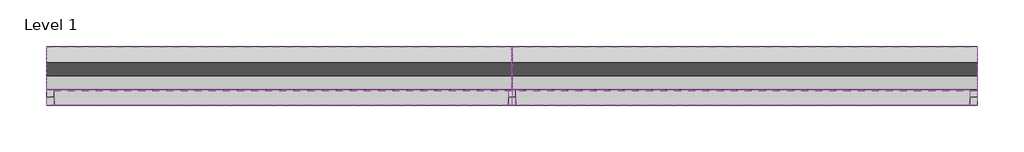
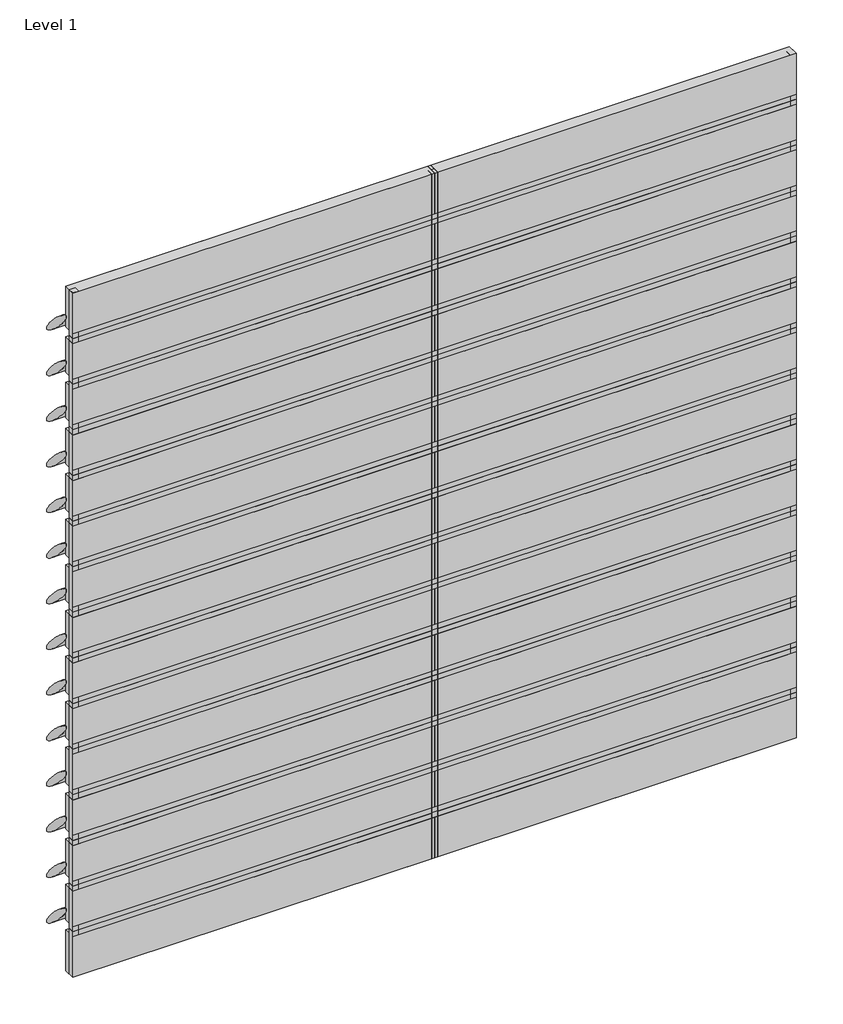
# One storey: 73 members, 60 plates.
"""IFC4 building model written with IfcOpenShell, lengths in millimetres."""

from ifc_helpers import new_model, si_unit, origin, place, context, project, spatial, transform, mapped, element, save
from components import rectangular_mullion_d3fee28a, rectangular_mullion_3c6e38bc, rectangular_mullion_05cc9e47, rectangular_mullion_4a4034a1, empty_system_panel_empty_4c958b02, empty_system_panel_empty_f3cf44e5, empty_system_panel_empty_0ce9900c

model = new_model("IFC4")

# Units and contexts
model_context = context("Model", 3, world=origin())
ifc_project = project(units=[si_unit("LENGTHUNIT", "METRE", prefix="MILLI")], contexts=[model_context])

# Site, building, storey
site = spatial("IfcSite", under=ifc_project)
building = spatial("IfcBuilding", under=site)
storey = spatial("IfcBuildingStorey", under=building, Name="Level 1", Elevation=0.0)

# Members
placement = place(None, origin())
rectangular_mullion_shape = rectangular_mullion_d3fee28a(model_context)
element("IfcMember", 1, ObjectType="Rectangular Mullion : RSen_21_CWM_blade - 400 ellips - 45°_gen_duco projects", at=placement, inside=storey, context=model_context, shape_type="MappedRepresentation", body=[
    mapped(rectangular_mullion_shape, transform((3000.0, 3000.0, 400.0), x_axis=(0.0, 0.0, 1.0), y_axis=(0.0, 1.0, 0.0), z_axis=(-1.0, 0.0, 0.0))),
])
element("IfcMember", 2, ObjectType="Rectangular Mullion : RSen_21_CWM_blade - 400 ellips - 45°_gen_duco projects", at=placement, inside=storey, context=model_context, shape_type="MappedRepresentation", body=[
    mapped(rectangular_mullion_shape, transform((3000.0, 3000.0, 800.0), x_axis=(0.0, 0.0, 1.0), y_axis=(0.0, 1.0, 0.0), z_axis=(-1.0, 0.0, 0.0))),
])
element("IfcMember", 3, ObjectType="Rectangular Mullion : RSen_21_CWM_blade - 400 ellips - 45°_gen_duco projects", at=placement, inside=storey, context=model_context, shape_type="MappedRepresentation", body=[
    mapped(rectangular_mullion_shape, transform((3000.0, 3000.0, 1200.0), x_axis=(0.0, 0.0, 1.0), y_axis=(0.0, 1.0, 0.0), z_axis=(-1.0, 0.0, 0.0))),
])
element("IfcMember", 4, ObjectType="Rectangular Mullion : RSen_21_CWM_blade - 400 ellips - 45°_gen_duco projects", at=placement, inside=storey, context=model_context, shape_type="MappedRepresentation", body=[
    mapped(rectangular_mullion_shape, transform((3000.0, 3000.0, 1600.0), x_axis=(0.0, 0.0, 1.0), y_axis=(0.0, 1.0, 0.0), z_axis=(-1.0, 0.0, 0.0))),
])
element("IfcMember", 5, ObjectType="Rectangular Mullion : RSen_21_CWM_blade - 400 ellips - 45°_gen_duco projects", at=placement, inside=storey, context=model_context, shape_type="MappedRepresentation", body=[
    mapped(rectangular_mullion_shape, transform((3000.0, 3000.0, 2000.0), x_axis=(0.0, 0.0, 1.0), y_axis=(0.0, 1.0, 0.0), z_axis=(-1.0, 0.0, 0.0))),
])
element("IfcMember", 6, ObjectType="Rectangular Mullion : RSen_21_CWM_blade - 400 ellips - 45°_gen_duco projects", at=placement, inside=storey, context=model_context, shape_type="MappedRepresentation", body=[
    mapped(rectangular_mullion_shape, transform((3000.0, 3000.0, 2400.0), x_axis=(0.0, 0.0, 1.0), y_axis=(0.0, 1.0, 0.0), z_axis=(-1.0, 0.0, 0.0))),
])
element("IfcMember", 7, ObjectType="Rectangular Mullion : RSen_21_CWM_blade - 400 ellips - 45°_gen_duco projects", at=placement, inside=storey, context=model_context, shape_type="MappedRepresentation", body=[
    mapped(rectangular_mullion_shape, transform((3000.0, 3000.0, 2800.0), x_axis=(0.0, 0.0, 1.0), y_axis=(0.0, 1.0, 0.0), z_axis=(-1.0, 0.0, 0.0))),
])
element("IfcMember", 8, ObjectType="Rectangular Mullion : RSen_21_CWM_blade - 400 ellips - 45°_gen_duco projects", at=placement, inside=storey, context=model_context, shape_type="MappedRepresentation", body=[
    mapped(rectangular_mullion_shape, transform((3000.0, 3000.0, 3200.0), x_axis=(0.0, 0.0, 1.0), y_axis=(0.0, 1.0, 0.0), z_axis=(-1.0, 0.0, 0.0))),
])
element("IfcMember", 9, ObjectType="Rectangular Mullion : RSen_21_CWM_blade - 400 ellips - 45°_gen_duco projects", at=placement, inside=storey, context=model_context, shape_type="MappedRepresentation", body=[
    mapped(rectangular_mullion_shape, transform((3000.0, 3000.0, 3600.0), x_axis=(0.0, 0.0, 1.0), y_axis=(0.0, 1.0, 0.0), z_axis=(-1.0, 0.0, 0.0))),
])
element("IfcMember", 10, ObjectType="Rectangular Mullion : RSen_21_CWM_blade - 400 ellips - 45°_gen_duco projects", at=placement, inside=storey, context=model_context, shape_type="MappedRepresentation", body=[
    mapped(rectangular_mullion_shape, transform((3000.0, 3000.0, 4000.0), x_axis=(0.0, 0.0, 1.0), y_axis=(0.0, 1.0, 0.0), z_axis=(-1.0, 0.0, 0.0))),
])
element("IfcMember", 11, ObjectType="Rectangular Mullion : RSen_21_CWM_blade - 400 ellips - 45°_gen_duco projects", at=placement, inside=storey, context=model_context, shape_type="MappedRepresentation", body=[
    mapped(rectangular_mullion_shape, transform((3000.0, 3000.0, 4400.0), x_axis=(0.0, 0.0, 1.0), y_axis=(0.0, 1.0, 0.0), z_axis=(-1.0, 0.0, 0.0))),
])
element("IfcMember", 12, ObjectType="Rectangular Mullion : RSen_21_CWM_blade - 400 ellips - 45°_gen_duco projects", at=placement, inside=storey, context=model_context, shape_type="MappedRepresentation", body=[
    mapped(rectangular_mullion_shape, transform((3000.0, 3000.0, 4800.0), x_axis=(0.0, 0.0, 1.0), y_axis=(0.0, 1.0, 0.0), z_axis=(-1.0, 0.0, 0.0))),
])
element("IfcMember", 13, ObjectType="Rectangular Mullion : RSen_21_CWM_blade - 400 ellips - 45°_gen_duco projects", at=placement, inside=storey, context=model_context, shape_type="MappedRepresentation", body=[
    mapped(rectangular_mullion_shape, transform((3000.0, 3000.0, 5200.0), x_axis=(0.0, 0.0, 1.0), y_axis=(0.0, 1.0, 0.0), z_axis=(-1.0, 0.0, 0.0))),
])
element("IfcMember", 14, ObjectType="Rectangular Mullion : RSen_21_CWM_blade - 400 ellips - 45°_gen_duco projects", at=placement, inside=storey, context=model_context, shape_type="MappedRepresentation", body=[
    mapped(rectangular_mullion_shape, transform((3000.0, 3000.0, 5600.0), x_axis=(0.0, 0.0, 1.0), y_axis=(0.0, 1.0, 0.0), z_axis=(-1.0, 0.0, 0.0))),
])
element("IfcMember", 15, ObjectType="Rectangular Mullion : RSen_21_CWM_blade - 400 ellips - 45°_gen_duco projects", at=placement, inside=storey, context=model_context, shape_type="MappedRepresentation", body=[
    mapped(rectangular_mullion_shape, transform((0.0, 3000.0, 400.0), x_axis=(0.0, 0.0, 1.0), y_axis=(0.0, 1.0, 0.0), z_axis=(-1.0, 0.0, 0.0))),
])
element("IfcMember", 16, ObjectType="Rectangular Mullion : RSen_21_CWM_blade - 400 ellips - 45°_gen_duco projects", at=placement, inside=storey, context=model_context, shape_type="MappedRepresentation", body=[
    mapped(rectangular_mullion_shape, transform((0.0, 3000.0, 800.0), x_axis=(0.0, 0.0, 1.0), y_axis=(0.0, 1.0, 0.0), z_axis=(-1.0, 0.0, 0.0))),
])
element("IfcMember", 17, ObjectType="Rectangular Mullion : RSen_21_CWM_blade - 400 ellips - 45°_gen_duco projects", at=placement, inside=storey, context=model_context, shape_type="MappedRepresentation", body=[
    mapped(rectangular_mullion_shape, transform((0.0, 3000.0, 1200.0), x_axis=(0.0, 0.0, 1.0), y_axis=(0.0, 1.0, 0.0), z_axis=(-1.0, 0.0, 0.0))),
])
element("IfcMember", 18, ObjectType="Rectangular Mullion : RSen_21_CWM_blade - 400 ellips - 45°_gen_duco projects", at=placement, inside=storey, context=model_context, shape_type="MappedRepresentation", body=[
    mapped(rectangular_mullion_shape, transform((0.0, 3000.0, 1600.0), x_axis=(0.0, 0.0, 1.0), y_axis=(0.0, 1.0, 0.0), z_axis=(-1.0, 0.0, 0.0))),
])
element("IfcMember", 19, ObjectType="Rectangular Mullion : RSen_21_CWM_blade - 400 ellips - 45°_gen_duco projects", at=placement, inside=storey, context=model_context, shape_type="MappedRepresentation", body=[
    mapped(rectangular_mullion_shape, transform((0.0, 3000.0, 2000.0), x_axis=(0.0, 0.0, 1.0), y_axis=(0.0, 1.0, 0.0), z_axis=(-1.0, 0.0, 0.0))),
])
element("IfcMember", 20, ObjectType="Rectangular Mullion : RSen_21_CWM_blade - 400 ellips - 45°_gen_duco projects", at=placement, inside=storey, context=model_context, shape_type="MappedRepresentation", body=[
    mapped(rectangular_mullion_shape, transform((0.0, 3000.0, 2400.0), x_axis=(0.0, 0.0, 1.0), y_axis=(0.0, 1.0, 0.0), z_axis=(-1.0, 0.0, 0.0))),
])
element("IfcMember", 21, ObjectType="Rectangular Mullion : RSen_21_CWM_blade - 400 ellips - 45°_gen_duco projects", at=placement, inside=storey, context=model_context, shape_type="MappedRepresentation", body=[
    mapped(rectangular_mullion_shape, transform((0.0, 3000.0, 2800.0), x_axis=(0.0, 0.0, 1.0), y_axis=(0.0, 1.0, 0.0), z_axis=(-1.0, 0.0, 0.0))),
])
element("IfcMember", 22, ObjectType="Rectangular Mullion : RSen_21_CWM_blade - 400 ellips - 45°_gen_duco projects", at=placement, inside=storey, context=model_context, shape_type="MappedRepresentation", body=[
    mapped(rectangular_mullion_shape, transform((0.0, 3000.0, 3200.0), x_axis=(0.0, 0.0, 1.0), y_axis=(0.0, 1.0, 0.0), z_axis=(-1.0, 0.0, 0.0))),
])
element("IfcMember", 23, ObjectType="Rectangular Mullion : RSen_21_CWM_blade - 400 ellips - 45°_gen_duco projects", at=placement, inside=storey, context=model_context, shape_type="MappedRepresentation", body=[
    mapped(rectangular_mullion_shape, transform((0.0, 3000.0, 3600.0), x_axis=(0.0, 0.0, 1.0), y_axis=(0.0, 1.0, 0.0), z_axis=(-1.0, 0.0, 0.0))),
])
element("IfcMember", 24, ObjectType="Rectangular Mullion : RSen_21_CWM_blade - 400 ellips - 45°_gen_duco projects", at=placement, inside=storey, context=model_context, shape_type="MappedRepresentation", body=[
    mapped(rectangular_mullion_shape, transform((0.0, 3000.0, 4000.0), x_axis=(0.0, 0.0, 1.0), y_axis=(0.0, 1.0, 0.0), z_axis=(-1.0, 0.0, 0.0))),
])
element("IfcMember", 25, ObjectType="Rectangular Mullion : RSen_21_CWM_blade - 400 ellips - 45°_gen_duco projects", at=placement, inside=storey, context=model_context, shape_type="MappedRepresentation", body=[
    mapped(rectangular_mullion_shape, transform((0.0, 3000.0, 4400.0), x_axis=(0.0, 0.0, 1.0), y_axis=(0.0, 1.0, 0.0), z_axis=(-1.0, 0.0, 0.0))),
])
element("IfcMember", 26, ObjectType="Rectangular Mullion : RSen_21_CWM_blade - 400 ellips - 45°_gen_duco projects", at=placement, inside=storey, context=model_context, shape_type="MappedRepresentation", body=[
    mapped(rectangular_mullion_shape, transform((0.0, 3000.0, 4800.0), x_axis=(0.0, 0.0, 1.0), y_axis=(0.0, 1.0, 0.0), z_axis=(-1.0, 0.0, 0.0))),
])
element("IfcMember", 27, ObjectType="Rectangular Mullion : RSen_21_CWM_blade - 400 ellips - 45°_gen_duco projects", at=placement, inside=storey, context=model_context, shape_type="MappedRepresentation", body=[
    mapped(rectangular_mullion_shape, transform((0.0, 3000.0, 5200.0), x_axis=(0.0, 0.0, 1.0), y_axis=(0.0, 1.0, 0.0), z_axis=(-1.0, 0.0, 0.0))),
])
element("IfcMember", 28, ObjectType="Rectangular Mullion : RSen_21_CWM_blade - 400 ellips - 45°_gen_duco projects", at=placement, inside=storey, context=model_context, shape_type="MappedRepresentation", body=[
    mapped(rectangular_mullion_shape, transform((0.0, 3000.0, 5600.0), x_axis=(0.0, 0.0, 1.0), y_axis=(0.0, 1.0, 0.0), z_axis=(-1.0, 0.0, 0.0))),
])
rectangular_mullion_2_shape = rectangular_mullion_3c6e38bc(model_context)
element("IfcMember", 29, ObjectType="Rectangular Mullion : RSen_21_CWM_support profile 50x50_gen_duco projects", at=placement, inside=storey, context=model_context, shape_type="MappedRepresentation", body=[
    mapped(rectangular_mullion_2_shape, transform((3000.0, 3000.0, 0.0), x_axis=(-1.0, 0.0, 0.0), y_axis=(0.0, 1.0, 0.0), z_axis=(0.0, 0.0, -1.0))),
])
element("IfcMember", 30, ObjectType="Rectangular Mullion : RSen_21_CWM_support profile 50x50_gen_duco projects", at=placement, inside=storey, context=model_context, shape_type="MappedRepresentation", body=[
    mapped(rectangular_mullion_2_shape, transform((3000.0, 3000.0, 400.0), x_axis=(-1.0, 0.0, 0.0), y_axis=(0.0, 1.0, 0.0), z_axis=(0.0, 0.0, -1.0))),
])
element("IfcMember", 31, ObjectType="Rectangular Mullion : RSen_21_CWM_support profile 50x50_gen_duco projects", at=placement, inside=storey, context=model_context, shape_type="MappedRepresentation", body=[
    mapped(rectangular_mullion_2_shape, transform((3000.0, 3000.0, 800.0), x_axis=(-1.0, 0.0, 0.0), y_axis=(0.0, 1.0, 0.0), z_axis=(0.0, 0.0, -1.0))),
])
element("IfcMember", 32, ObjectType="Rectangular Mullion : RSen_21_CWM_support profile 50x50_gen_duco projects", at=placement, inside=storey, context=model_context, shape_type="MappedRepresentation", body=[
    mapped(rectangular_mullion_2_shape, transform((3000.0, 3000.0, 1200.0), x_axis=(-1.0, 0.0, 0.0), y_axis=(0.0, 1.0, 0.0), z_axis=(0.0, 0.0, -1.0))),
])
element("IfcMember", 33, ObjectType="Rectangular Mullion : RSen_21_CWM_support profile 50x50_gen_duco projects", at=placement, inside=storey, context=model_context, shape_type="MappedRepresentation", body=[
    mapped(rectangular_mullion_2_shape, transform((3000.0, 3000.0, 1600.0), x_axis=(-1.0, 0.0, 0.0), y_axis=(0.0, 1.0, 0.0), z_axis=(0.0, 0.0, -1.0))),
])
element("IfcMember", 34, ObjectType="Rectangular Mullion : RSen_21_CWM_support profile 50x50_gen_duco projects", at=placement, inside=storey, context=model_context, shape_type="MappedRepresentation", body=[
    mapped(rectangular_mullion_2_shape, transform((3000.0, 3000.0, 2000.0), x_axis=(-1.0, 0.0, 0.0), y_axis=(0.0, 1.0, 0.0), z_axis=(0.0, 0.0, -1.0))),
])
element("IfcMember", 35, ObjectType="Rectangular Mullion : RSen_21_CWM_support profile 50x50_gen_duco projects", at=placement, inside=storey, context=model_context, shape_type="MappedRepresentation", body=[
    mapped(rectangular_mullion_2_shape, transform((3000.0, 3000.0, 2400.0), x_axis=(-1.0, 0.0, 0.0), y_axis=(0.0, 1.0, 0.0), z_axis=(0.0, 0.0, -1.0))),
])
element("IfcMember", 36, ObjectType="Rectangular Mullion : RSen_21_CWM_support profile 50x50_gen_duco projects", at=placement, inside=storey, context=model_context, shape_type="MappedRepresentation", body=[
    mapped(rectangular_mullion_2_shape, transform((3000.0, 3000.0, 2800.0), x_axis=(-1.0, 0.0, 0.0), y_axis=(0.0, 1.0, 0.0), z_axis=(0.0, 0.0, -1.0))),
])
element("IfcMember", 37, ObjectType="Rectangular Mullion : RSen_21_CWM_support profile 50x50_gen_duco projects", at=placement, inside=storey, context=model_context, shape_type="MappedRepresentation", body=[
    mapped(rectangular_mullion_2_shape, transform((3000.0, 3000.0, 3200.0), x_axis=(-1.0, 0.0, 0.0), y_axis=(0.0, 1.0, 0.0), z_axis=(0.0, 0.0, -1.0))),
])
element("IfcMember", 38, ObjectType="Rectangular Mullion : RSen_21_CWM_support profile 50x50_gen_duco projects", at=placement, inside=storey, context=model_context, shape_type="MappedRepresentation", body=[
    mapped(rectangular_mullion_2_shape, transform((3000.0, 3000.0, 3600.0), x_axis=(-1.0, 0.0, 0.0), y_axis=(0.0, 1.0, 0.0), z_axis=(0.0, 0.0, -1.0))),
])
element("IfcMember", 39, ObjectType="Rectangular Mullion : RSen_21_CWM_support profile 50x50_gen_duco projects", at=placement, inside=storey, context=model_context, shape_type="MappedRepresentation", body=[
    mapped(rectangular_mullion_2_shape, transform((3000.0, 3000.0, 4000.0), x_axis=(-1.0, 0.0, 0.0), y_axis=(0.0, 1.0, 0.0), z_axis=(0.0, 0.0, -1.0))),
])
element("IfcMember", 40, ObjectType="Rectangular Mullion : RSen_21_CWM_support profile 50x50_gen_duco projects", at=placement, inside=storey, context=model_context, shape_type="MappedRepresentation", body=[
    mapped(rectangular_mullion_2_shape, transform((3000.0, 3000.0, 4400.0), x_axis=(-1.0, 0.0, 0.0), y_axis=(0.0, 1.0, 0.0), z_axis=(0.0, 0.0, -1.0))),
])
element("IfcMember", 41, ObjectType="Rectangular Mullion : RSen_21_CWM_support profile 50x50_gen_duco projects", at=placement, inside=storey, context=model_context, shape_type="MappedRepresentation", body=[
    mapped(rectangular_mullion_2_shape, transform((3000.0, 3000.0, 4800.0), x_axis=(-1.0, 0.0, 0.0), y_axis=(0.0, 1.0, 0.0), z_axis=(0.0, 0.0, -1.0))),
])
element("IfcMember", 42, ObjectType="Rectangular Mullion : RSen_21_CWM_support profile 50x50_gen_duco projects", at=placement, inside=storey, context=model_context, shape_type="MappedRepresentation", body=[
    mapped(rectangular_mullion_2_shape, transform((3000.0, 3000.0, 5200.0), x_axis=(-1.0, 0.0, 0.0), y_axis=(0.0, 1.0, 0.0), z_axis=(0.0, 0.0, -1.0))),
])
element("IfcMember", 43, ObjectType="Rectangular Mullion : RSen_21_CWM_support profile 50x50_gen_duco projects", at=placement, inside=storey, context=model_context, shape_type="MappedRepresentation", body=[
    mapped(rectangular_mullion_2_shape, transform((3000.0, 3000.0, 5600.0), x_axis=(-1.0, 0.0, 0.0), y_axis=(0.0, 1.0, 0.0), z_axis=(0.0, 0.0, -1.0))),
])
rectangular_mullion_3_shape = rectangular_mullion_05cc9e47(model_context)
element("IfcMember", 44, ObjectType="Rectangular Mullion : RSen_21_CWM_support profile 50x50 - left_gen_duco projects", at=placement, inside=storey, context=model_context, shape_type="MappedRepresentation", body=[
    mapped(rectangular_mullion_3_shape, transform((0.0, 3000.0, 0.0), x_axis=(-1.0, 0.0, 0.0), y_axis=(0.0, 1.0, 0.0), z_axis=(0.0, 0.0, -1.0))),
])
rectangular_mullion_4_shape = rectangular_mullion_4a4034a1(model_context)
element("IfcMember", 45, ObjectType="Rectangular Mullion : RSen_21_CWM_support profile 50x50 - right_gen_duco projects", at=placement, inside=storey, context=model_context, shape_type="MappedRepresentation", body=[
    mapped(rectangular_mullion_4_shape, transform((6000.0, 3000.0, 6000.0), x_axis=(1.0, 0.0, 0.0), y_axis=(0.0, 1.0, 0.0), z_axis=(0.0, 0.0, 1.0))),
])
element("IfcMember", 46, ObjectType="Rectangular Mullion : RSen_21_CWM_support profile 50x50 - left_gen_duco projects", at=placement, inside=storey, context=model_context, shape_type="MappedRepresentation", body=[
    mapped(rectangular_mullion_3_shape, transform((0.0, 3000.0, 400.0), x_axis=(-1.0, 0.0, 0.0), y_axis=(0.0, 1.0, 0.0), z_axis=(0.0, 0.0, -1.0))),
])
element("IfcMember", 47, ObjectType="Rectangular Mullion : RSen_21_CWM_support profile 50x50 - left_gen_duco projects", at=placement, inside=storey, context=model_context, shape_type="MappedRepresentation", body=[
    mapped(rectangular_mullion_3_shape, transform((0.0, 3000.0, 800.0), x_axis=(-1.0, 0.0, 0.0), y_axis=(0.0, 1.0, 0.0), z_axis=(0.0, 0.0, -1.0))),
])
element("IfcMember", 48, ObjectType="Rectangular Mullion : RSen_21_CWM_support profile 50x50 - left_gen_duco projects", at=placement, inside=storey, context=model_context, shape_type="MappedRepresentation", body=[
    mapped(rectangular_mullion_3_shape, transform((0.0, 3000.0, 1200.0), x_axis=(-1.0, 0.0, 0.0), y_axis=(0.0, 1.0, 0.0), z_axis=(0.0, 0.0, -1.0))),
])
element("IfcMember", 49, ObjectType="Rectangular Mullion : RSen_21_CWM_support profile 50x50 - left_gen_duco projects", at=placement, inside=storey, context=model_context, shape_type="MappedRepresentation", body=[
    mapped(rectangular_mullion_3_shape, transform((0.0, 3000.0, 1600.0), x_axis=(-1.0, 0.0, 0.0), y_axis=(0.0, 1.0, 0.0), z_axis=(0.0, 0.0, -1.0))),
])
element("IfcMember", 50, ObjectType="Rectangular Mullion : RSen_21_CWM_support profile 50x50 - left_gen_duco projects", at=placement, inside=storey, context=model_context, shape_type="MappedRepresentation", body=[
    mapped(rectangular_mullion_3_shape, transform((0.0, 3000.0, 2000.0), x_axis=(-1.0, 0.0, 0.0), y_axis=(0.0, 1.0, 0.0), z_axis=(0.0, 0.0, -1.0))),
])
element("IfcMember", 51, ObjectType="Rectangular Mullion : RSen_21_CWM_support profile 50x50 - left_gen_duco projects", at=placement, inside=storey, context=model_context, shape_type="MappedRepresentation", body=[
    mapped(rectangular_mullion_3_shape, transform((0.0, 3000.0, 2400.0), x_axis=(-1.0, 0.0, 0.0), y_axis=(0.0, 1.0, 0.0), z_axis=(0.0, 0.0, -1.0))),
])
element("IfcMember", 52, ObjectType="Rectangular Mullion : RSen_21_CWM_support profile 50x50 - left_gen_duco projects", at=placement, inside=storey, context=model_context, shape_type="MappedRepresentation", body=[
    mapped(rectangular_mullion_3_shape, transform((0.0, 3000.0, 2800.0), x_axis=(-1.0, 0.0, 0.0), y_axis=(0.0, 1.0, 0.0), z_axis=(0.0, 0.0, -1.0))),
])
element("IfcMember", 53, ObjectType="Rectangular Mullion : RSen_21_CWM_support profile 50x50 - left_gen_duco projects", at=placement, inside=storey, context=model_context, shape_type="MappedRepresentation", body=[
    mapped(rectangular_mullion_3_shape, transform((0.0, 3000.0, 3200.0), x_axis=(-1.0, 0.0, 0.0), y_axis=(0.0, 1.0, 0.0), z_axis=(0.0, 0.0, -1.0))),
])
element("IfcMember", 54, ObjectType="Rectangular Mullion : RSen_21_CWM_support profile 50x50 - left_gen_duco projects", at=placement, inside=storey, context=model_context, shape_type="MappedRepresentation", body=[
    mapped(rectangular_mullion_3_shape, transform((0.0, 3000.0, 3600.0), x_axis=(-1.0, 0.0, 0.0), y_axis=(0.0, 1.0, 0.0), z_axis=(0.0, 0.0, -1.0))),
])
element("IfcMember", 55, ObjectType="Rectangular Mullion : RSen_21_CWM_support profile 50x50 - left_gen_duco projects", at=placement, inside=storey, context=model_context, shape_type="MappedRepresentation", body=[
    mapped(rectangular_mullion_3_shape, transform((0.0, 3000.0, 4000.0), x_axis=(-1.0, 0.0, 0.0), y_axis=(0.0, 1.0, 0.0), z_axis=(0.0, 0.0, -1.0))),
])
element("IfcMember", 56, ObjectType="Rectangular Mullion : RSen_21_CWM_support profile 50x50 - left_gen_duco projects", at=placement, inside=storey, context=model_context, shape_type="MappedRepresentation", body=[
    mapped(rectangular_mullion_3_shape, transform((0.0, 3000.0, 4400.0), x_axis=(-1.0, 0.0, 0.0), y_axis=(0.0, 1.0, 0.0), z_axis=(0.0, 0.0, -1.0))),
])
element("IfcMember", 57, ObjectType="Rectangular Mullion : RSen_21_CWM_support profile 50x50 - left_gen_duco projects", at=placement, inside=storey, context=model_context, shape_type="MappedRepresentation", body=[
    mapped(rectangular_mullion_3_shape, transform((0.0, 3000.0, 4800.0), x_axis=(-1.0, 0.0, 0.0), y_axis=(0.0, 1.0, 0.0), z_axis=(0.0, 0.0, -1.0))),
])
element("IfcMember", 58, ObjectType="Rectangular Mullion : RSen_21_CWM_support profile 50x50 - left_gen_duco projects", at=placement, inside=storey, context=model_context, shape_type="MappedRepresentation", body=[
    mapped(rectangular_mullion_3_shape, transform((0.0, 3000.0, 5200.0), x_axis=(-1.0, 0.0, 0.0), y_axis=(0.0, 1.0, 0.0), z_axis=(0.0, 0.0, -1.0))),
])
element("IfcMember", 59, ObjectType="Rectangular Mullion : RSen_21_CWM_support profile 50x50 - left_gen_duco projects", at=placement, inside=storey, context=model_context, shape_type="MappedRepresentation", body=[
    mapped(rectangular_mullion_3_shape, transform((0.0, 3000.0, 5600.0), x_axis=(-1.0, 0.0, 0.0), y_axis=(0.0, 1.0, 0.0), z_axis=(0.0, 0.0, -1.0))),
])
element("IfcMember", 60, ObjectType="Rectangular Mullion : RSen_21_CWM_support profile 50x50 - right_gen_duco projects", at=placement, inside=storey, context=model_context, shape_type="MappedRepresentation", body=[
    mapped(rectangular_mullion_4_shape, transform((6000.0, 3000.0, 400.0), x_axis=(1.0, 0.0, 0.0), y_axis=(0.0, 1.0, 0.0), z_axis=(0.0, 0.0, 1.0))),
])
element("IfcMember", 61, ObjectType="Rectangular Mullion : RSen_21_CWM_support profile 50x50 - right_gen_duco projects", at=placement, inside=storey, context=model_context, shape_type="MappedRepresentation", body=[
    mapped(rectangular_mullion_4_shape, transform((6000.0, 3000.0, 800.0), x_axis=(1.0, 0.0, 0.0), y_axis=(0.0, 1.0, 0.0), z_axis=(0.0, 0.0, 1.0))),
])
element("IfcMember", 62, ObjectType="Rectangular Mullion : RSen_21_CWM_support profile 50x50 - right_gen_duco projects", at=placement, inside=storey, context=model_context, shape_type="MappedRepresentation", body=[
    mapped(rectangular_mullion_4_shape, transform((6000.0, 3000.0, 1200.0), x_axis=(1.0, 0.0, 0.0), y_axis=(0.0, 1.0, 0.0), z_axis=(0.0, 0.0, 1.0))),
])
element("IfcMember", 63, ObjectType="Rectangular Mullion : RSen_21_CWM_support profile 50x50 - right_gen_duco projects", at=placement, inside=storey, context=model_context, shape_type="MappedRepresentation", body=[
    mapped(rectangular_mullion_4_shape, transform((6000.0, 3000.0, 1600.0), x_axis=(1.0, 0.0, 0.0), y_axis=(0.0, 1.0, 0.0), z_axis=(0.0, 0.0, 1.0))),
])
element("IfcMember", 64, ObjectType="Rectangular Mullion : RSen_21_CWM_support profile 50x50 - right_gen_duco projects", at=placement, inside=storey, context=model_context, shape_type="MappedRepresentation", body=[
    mapped(rectangular_mullion_4_shape, transform((6000.0, 3000.0, 2000.0), x_axis=(1.0, 0.0, 0.0), y_axis=(0.0, 1.0, 0.0), z_axis=(0.0, 0.0, 1.0))),
])
element("IfcMember", 65, ObjectType="Rectangular Mullion : RSen_21_CWM_support profile 50x50 - right_gen_duco projects", at=placement, inside=storey, context=model_context, shape_type="MappedRepresentation", body=[
    mapped(rectangular_mullion_4_shape, transform((6000.0, 3000.0, 2400.0), x_axis=(1.0, 0.0, 0.0), y_axis=(0.0, 1.0, 0.0), z_axis=(0.0, 0.0, 1.0))),
])
element("IfcMember", 66, ObjectType="Rectangular Mullion : RSen_21_CWM_support profile 50x50 - right_gen_duco projects", at=placement, inside=storey, context=model_context, shape_type="MappedRepresentation", body=[
    mapped(rectangular_mullion_4_shape, transform((6000.0, 3000.0, 2800.0), x_axis=(1.0, 0.0, 0.0), y_axis=(0.0, 1.0, 0.0), z_axis=(0.0, 0.0, 1.0))),
])
element("IfcMember", 67, ObjectType="Rectangular Mullion : RSen_21_CWM_support profile 50x50 - right_gen_duco projects", at=placement, inside=storey, context=model_context, shape_type="MappedRepresentation", body=[
    mapped(rectangular_mullion_4_shape, transform((6000.0, 3000.0, 3200.0), x_axis=(1.0, 0.0, 0.0), y_axis=(0.0, 1.0, 0.0), z_axis=(0.0, 0.0, 1.0))),
])
element("IfcMember", 68, ObjectType="Rectangular Mullion : RSen_21_CWM_support profile 50x50 - right_gen_duco projects", at=placement, inside=storey, context=model_context, shape_type="MappedRepresentation", body=[
    mapped(rectangular_mullion_4_shape, transform((6000.0, 3000.0, 3600.0), x_axis=(1.0, 0.0, 0.0), y_axis=(0.0, 1.0, 0.0), z_axis=(0.0, 0.0, 1.0))),
])
element("IfcMember", 69, ObjectType="Rectangular Mullion : RSen_21_CWM_support profile 50x50 - right_gen_duco projects", at=placement, inside=storey, context=model_context, shape_type="MappedRepresentation", body=[
    mapped(rectangular_mullion_4_shape, transform((6000.0, 3000.0, 4000.0), x_axis=(1.0, 0.0, 0.0), y_axis=(0.0, 1.0, 0.0), z_axis=(0.0, 0.0, 1.0))),
])
element("IfcMember", 70, ObjectType="Rectangular Mullion : RSen_21_CWM_support profile 50x50 - right_gen_duco projects", at=placement, inside=storey, context=model_context, shape_type="MappedRepresentation", body=[
    mapped(rectangular_mullion_4_shape, transform((6000.0, 3000.0, 4400.0), x_axis=(1.0, 0.0, 0.0), y_axis=(0.0, 1.0, 0.0), z_axis=(0.0, 0.0, 1.0))),
])
element("IfcMember", 71, ObjectType="Rectangular Mullion : RSen_21_CWM_support profile 50x50 - right_gen_duco projects", at=placement, inside=storey, context=model_context, shape_type="MappedRepresentation", body=[
    mapped(rectangular_mullion_4_shape, transform((6000.0, 3000.0, 4800.0), x_axis=(1.0, 0.0, 0.0), y_axis=(0.0, 1.0, 0.0), z_axis=(0.0, 0.0, 1.0))),
])
element("IfcMember", 72, ObjectType="Rectangular Mullion : RSen_21_CWM_support profile 50x50 - right_gen_duco projects", at=placement, inside=storey, context=model_context, shape_type="MappedRepresentation", body=[
    mapped(rectangular_mullion_4_shape, transform((6000.0, 3000.0, 5200.0), x_axis=(1.0, 0.0, 0.0), y_axis=(0.0, 1.0, 0.0), z_axis=(0.0, 0.0, 1.0))),
])
element("IfcMember", 73, ObjectType="Rectangular Mullion : RSen_21_CWM_support profile 50x50 - right_gen_duco projects", at=placement, inside=storey, context=model_context, shape_type="MappedRepresentation", body=[
    mapped(rectangular_mullion_4_shape, transform((6000.0, 3000.0, 5600.0), x_axis=(1.0, 0.0, 0.0), y_axis=(0.0, 1.0, 0.0), z_axis=(0.0, 0.0, 1.0))),
])

# Plates
empty_system_panel_empty_shape = empty_system_panel_empty_4c958b02(model_context)
element("IfcPlate", 74, ObjectType="Empty System Panel : Empty", at=placement, inside=storey, context=model_context, shape_type="MappedRepresentation", body=[
    mapped(empty_system_panel_empty_shape, transform((4500.0, 3000.0, 0.0), x_axis=(-1.0, 0.0, 0.0), y_axis=(0.0, -1.0, 0.0), z_axis=(0.0, 0.0, 1.0))),
])
element("IfcPlate", 75, ObjectType="Empty System Panel : Empty", at=placement, inside=storey, context=model_context, shape_type="MappedRepresentation", body=[
    mapped(empty_system_panel_empty_shape, transform((1500.0, 3000.0, 0.0), x_axis=(-1.0, 0.0, 0.0), y_axis=(0.0, -1.0, 0.0), z_axis=(0.0, 0.0, 1.0))),
])
element("IfcPlate", 76, ObjectType="Empty System Panel : Empty", at=placement, inside=storey, context=model_context, shape_type="MappedRepresentation", body=[
    mapped(empty_system_panel_empty_shape, transform((4500.0, 3000.0, 5644.5477272), x_axis=(-1.0, 0.0, 0.0), y_axis=(0.0, -1.0, 0.0), z_axis=(0.0, 0.0, 1.0))),
])
element("IfcPlate", 77, ObjectType="Empty System Panel : Empty", at=placement, inside=storey, context=model_context, shape_type="MappedRepresentation", body=[
    mapped(empty_system_panel_empty_shape, transform((1500.0, 3000.0, 5644.5477272), x_axis=(-1.0, 0.0, 0.0), y_axis=(0.0, -1.0, 0.0), z_axis=(0.0, 0.0, 1.0))),
])
empty_system_panel_empty_2_shape = empty_system_panel_empty_f3cf44e5(model_context)
element("IfcPlate", 78, ObjectType="Empty System Panel : Empty", at=placement, inside=storey, context=model_context, shape_type="MappedRepresentation", body=[
    mapped(empty_system_panel_empty_2_shape, transform((4500.0, 3000.0, 444.5477272), x_axis=(-1.0, 0.0, 0.0), y_axis=(0.0, -1.0, 0.0), z_axis=(0.0, 0.0, 1.0))),
])
element("IfcPlate", 79, ObjectType="Empty System Panel : Empty", at=placement, inside=storey, context=model_context, shape_type="MappedRepresentation", body=[
    mapped(empty_system_panel_empty_2_shape, transform((1500.0, 3000.0, 444.5477272), x_axis=(-1.0, 0.0, 0.0), y_axis=(0.0, -1.0, 0.0), z_axis=(0.0, 0.0, 1.0))),
])
element("IfcPlate", 80, ObjectType="Empty System Panel : Empty", at=placement, inside=storey, context=model_context, shape_type="MappedRepresentation", body=[
    mapped(empty_system_panel_empty_2_shape, transform((4500.0, 3000.0, 844.5477272), x_axis=(-1.0, 0.0, 0.0), y_axis=(0.0, -1.0, 0.0), z_axis=(0.0, 0.0, 1.0))),
])
element("IfcPlate", 81, ObjectType="Empty System Panel : Empty", at=placement, inside=storey, context=model_context, shape_type="MappedRepresentation", body=[
    mapped(empty_system_panel_empty_2_shape, transform((1500.0, 3000.0, 844.5477272), x_axis=(-1.0, 0.0, 0.0), y_axis=(0.0, -1.0, 0.0), z_axis=(0.0, 0.0, 1.0))),
])
element("IfcPlate", 82, ObjectType="Empty System Panel : Empty", at=placement, inside=storey, context=model_context, shape_type="MappedRepresentation", body=[
    mapped(empty_system_panel_empty_2_shape, transform((4500.0, 3000.0, 1244.5477272), x_axis=(-1.0, 0.0, 0.0), y_axis=(0.0, -1.0, 0.0), z_axis=(0.0, 0.0, 1.0))),
])
element("IfcPlate", 83, ObjectType="Empty System Panel : Empty", at=placement, inside=storey, context=model_context, shape_type="MappedRepresentation", body=[
    mapped(empty_system_panel_empty_2_shape, transform((1500.0, 3000.0, 1244.5477272), x_axis=(-1.0, 0.0, 0.0), y_axis=(0.0, -1.0, 0.0), z_axis=(0.0, 0.0, 1.0))),
])
element("IfcPlate", 84, ObjectType="Empty System Panel : Empty", at=placement, inside=storey, context=model_context, shape_type="MappedRepresentation", body=[
    mapped(empty_system_panel_empty_2_shape, transform((4500.0, 3000.0, 1644.5477272), x_axis=(-1.0, 0.0, 0.0), y_axis=(0.0, -1.0, 0.0), z_axis=(0.0, 0.0, 1.0))),
])
element("IfcPlate", 85, ObjectType="Empty System Panel : Empty", at=placement, inside=storey, context=model_context, shape_type="MappedRepresentation", body=[
    mapped(empty_system_panel_empty_2_shape, transform((1500.0, 3000.0, 1644.5477272), x_axis=(-1.0, 0.0, 0.0), y_axis=(0.0, -1.0, 0.0), z_axis=(0.0, 0.0, 1.0))),
])
element("IfcPlate", 86, ObjectType="Empty System Panel : Empty", at=placement, inside=storey, context=model_context, shape_type="MappedRepresentation", body=[
    mapped(empty_system_panel_empty_2_shape, transform((4500.0, 3000.0, 2044.5477272), x_axis=(-1.0, 0.0, 0.0), y_axis=(0.0, -1.0, 0.0), z_axis=(0.0, 0.0, 1.0))),
])
element("IfcPlate", 87, ObjectType="Empty System Panel : Empty", at=placement, inside=storey, context=model_context, shape_type="MappedRepresentation", body=[
    mapped(empty_system_panel_empty_2_shape, transform((1500.0, 3000.0, 2044.5477272), x_axis=(-1.0, 0.0, 0.0), y_axis=(0.0, -1.0, 0.0), z_axis=(0.0, 0.0, 1.0))),
])
element("IfcPlate", 88, ObjectType="Empty System Panel : Empty", at=placement, inside=storey, context=model_context, shape_type="MappedRepresentation", body=[
    mapped(empty_system_panel_empty_2_shape, transform((4500.0, 3000.0, 2444.5477272), x_axis=(-1.0, 0.0, 0.0), y_axis=(0.0, -1.0, 0.0), z_axis=(0.0, 0.0, 1.0))),
])
element("IfcPlate", 89, ObjectType="Empty System Panel : Empty", at=placement, inside=storey, context=model_context, shape_type="MappedRepresentation", body=[
    mapped(empty_system_panel_empty_2_shape, transform((1500.0, 3000.0, 2444.5477272), x_axis=(-1.0, 0.0, 0.0), y_axis=(0.0, -1.0, 0.0), z_axis=(0.0, 0.0, 1.0))),
])
element("IfcPlate", 90, ObjectType="Empty System Panel : Empty", at=placement, inside=storey, context=model_context, shape_type="MappedRepresentation", body=[
    mapped(empty_system_panel_empty_2_shape, transform((4500.0, 3000.0, 2844.5477272), x_axis=(-1.0, 0.0, 0.0), y_axis=(0.0, -1.0, 0.0), z_axis=(0.0, 0.0, 1.0))),
])
element("IfcPlate", 91, ObjectType="Empty System Panel : Empty", at=placement, inside=storey, context=model_context, shape_type="MappedRepresentation", body=[
    mapped(empty_system_panel_empty_2_shape, transform((1500.0, 3000.0, 2844.5477272), x_axis=(-1.0, 0.0, 0.0), y_axis=(0.0, -1.0, 0.0), z_axis=(0.0, 0.0, 1.0))),
])
element("IfcPlate", 92, ObjectType="Empty System Panel : Empty", at=placement, inside=storey, context=model_context, shape_type="MappedRepresentation", body=[
    mapped(empty_system_panel_empty_2_shape, transform((4500.0, 3000.0, 3244.5477272), x_axis=(-1.0, 0.0, 0.0), y_axis=(0.0, -1.0, 0.0), z_axis=(0.0, 0.0, 1.0))),
])
element("IfcPlate", 93, ObjectType="Empty System Panel : Empty", at=placement, inside=storey, context=model_context, shape_type="MappedRepresentation", body=[
    mapped(empty_system_panel_empty_2_shape, transform((1500.0, 3000.0, 3244.5477272), x_axis=(-1.0, 0.0, 0.0), y_axis=(0.0, -1.0, 0.0), z_axis=(0.0, 0.0, 1.0))),
])
element("IfcPlate", 94, ObjectType="Empty System Panel : Empty", at=placement, inside=storey, context=model_context, shape_type="MappedRepresentation", body=[
    mapped(empty_system_panel_empty_2_shape, transform((4500.0, 3000.0, 3644.5477272), x_axis=(-1.0, 0.0, 0.0), y_axis=(0.0, -1.0, 0.0), z_axis=(0.0, 0.0, 1.0))),
])
element("IfcPlate", 95, ObjectType="Empty System Panel : Empty", at=placement, inside=storey, context=model_context, shape_type="MappedRepresentation", body=[
    mapped(empty_system_panel_empty_2_shape, transform((1500.0, 3000.0, 3644.5477272), x_axis=(-1.0, 0.0, 0.0), y_axis=(0.0, -1.0, 0.0), z_axis=(0.0, 0.0, 1.0))),
])
element("IfcPlate", 96, ObjectType="Empty System Panel : Empty", at=placement, inside=storey, context=model_context, shape_type="MappedRepresentation", body=[
    mapped(empty_system_panel_empty_2_shape, transform((4500.0, 3000.0, 4044.5477272), x_axis=(-1.0, 0.0, 0.0), y_axis=(0.0, -1.0, 0.0), z_axis=(0.0, 0.0, 1.0))),
])
element("IfcPlate", 97, ObjectType="Empty System Panel : Empty", at=placement, inside=storey, context=model_context, shape_type="MappedRepresentation", body=[
    mapped(empty_system_panel_empty_2_shape, transform((1500.0, 3000.0, 4044.5477272), x_axis=(-1.0, 0.0, 0.0), y_axis=(0.0, -1.0, 0.0), z_axis=(0.0, 0.0, 1.0))),
])
element("IfcPlate", 98, ObjectType="Empty System Panel : Empty", at=placement, inside=storey, context=model_context, shape_type="MappedRepresentation", body=[
    mapped(empty_system_panel_empty_2_shape, transform((4500.0, 3000.0, 4444.5477272), x_axis=(-1.0, 0.0, 0.0), y_axis=(0.0, -1.0, 0.0), z_axis=(0.0, 0.0, 1.0))),
])
element("IfcPlate", 99, ObjectType="Empty System Panel : Empty", at=placement, inside=storey, context=model_context, shape_type="MappedRepresentation", body=[
    mapped(empty_system_panel_empty_2_shape, transform((1500.0, 3000.0, 4444.5477272), x_axis=(-1.0, 0.0, 0.0), y_axis=(0.0, -1.0, 0.0), z_axis=(0.0, 0.0, 1.0))),
])
element("IfcPlate", 100, ObjectType="Empty System Panel : Empty", at=placement, inside=storey, context=model_context, shape_type="MappedRepresentation", body=[
    mapped(empty_system_panel_empty_2_shape, transform((4500.0, 3000.0, 4844.5477272), x_axis=(-1.0, 0.0, 0.0), y_axis=(0.0, -1.0, 0.0), z_axis=(0.0, 0.0, 1.0))),
])
element("IfcPlate", 101, ObjectType="Empty System Panel : Empty", at=placement, inside=storey, context=model_context, shape_type="MappedRepresentation", body=[
    mapped(empty_system_panel_empty_2_shape, transform((1500.0, 3000.0, 4844.5477272), x_axis=(-1.0, 0.0, 0.0), y_axis=(0.0, -1.0, 0.0), z_axis=(0.0, 0.0, 1.0))),
])
element("IfcPlate", 102, ObjectType="Empty System Panel : Empty", at=placement, inside=storey, context=model_context, shape_type="MappedRepresentation", body=[
    mapped(empty_system_panel_empty_2_shape, transform((4500.0, 3000.0, 5244.5477272), x_axis=(-1.0, 0.0, 0.0), y_axis=(0.0, -1.0, 0.0), z_axis=(0.0, 0.0, 1.0))),
])
element("IfcPlate", 103, ObjectType="Empty System Panel : Empty", at=placement, inside=storey, context=model_context, shape_type="MappedRepresentation", body=[
    mapped(empty_system_panel_empty_2_shape, transform((1500.0, 3000.0, 5244.5477272), x_axis=(-1.0, 0.0, 0.0), y_axis=(0.0, -1.0, 0.0), z_axis=(0.0, 0.0, 1.0))),
])
empty_system_panel_empty_3_shape = empty_system_panel_empty_0ce9900c(model_context)
element("IfcPlate", 104, ObjectType="Empty System Panel : Empty", at=placement, inside=storey, context=model_context, shape_type="MappedRepresentation", body=[
    mapped(empty_system_panel_empty_3_shape, transform((4487.5, 3000.0, 0.0), x_axis=(-1.0, 0.0, 0.0), y_axis=(0.0, -1.0, 0.0), z_axis=(0.0, 0.0, 1.0))),
])
element("IfcPlate", 105, ObjectType="Empty System Panel : Empty", at=placement, inside=storey, context=model_context, shape_type="MappedRepresentation", body=[
    mapped(empty_system_panel_empty_3_shape, transform((1512.5, 3000.0, 0.0), x_axis=(-1.0, 0.0, 0.0), y_axis=(0.0, -1.0, 0.0), z_axis=(0.0, 0.0, 1.0))),
])
element("IfcPlate", 106, ObjectType="Empty System Panel : Empty", at=placement, inside=storey, context=model_context, shape_type="MappedRepresentation", body=[
    mapped(empty_system_panel_empty_3_shape, transform((4487.5, 3000.0, 400.0), x_axis=(-1.0, 0.0, 0.0), y_axis=(0.0, -1.0, 0.0), z_axis=(0.0, 0.0, 1.0))),
])
element("IfcPlate", 107, ObjectType="Empty System Panel : Empty", at=placement, inside=storey, context=model_context, shape_type="MappedRepresentation", body=[
    mapped(empty_system_panel_empty_3_shape, transform((1512.5, 3000.0, 400.0), x_axis=(-1.0, 0.0, 0.0), y_axis=(0.0, -1.0, 0.0), z_axis=(0.0, 0.0, 1.0))),
])
element("IfcPlate", 108, ObjectType="Empty System Panel : Empty", at=placement, inside=storey, context=model_context, shape_type="MappedRepresentation", body=[
    mapped(empty_system_panel_empty_3_shape, transform((4487.5, 3000.0, 800.0), x_axis=(-1.0, 0.0, 0.0), y_axis=(0.0, -1.0, 0.0), z_axis=(0.0, 0.0, 1.0))),
])
element("IfcPlate", 109, ObjectType="Empty System Panel : Empty", at=placement, inside=storey, context=model_context, shape_type="MappedRepresentation", body=[
    mapped(empty_system_panel_empty_3_shape, transform((1512.5, 3000.0, 800.0), x_axis=(-1.0, 0.0, 0.0), y_axis=(0.0, -1.0, 0.0), z_axis=(0.0, 0.0, 1.0))),
])
element("IfcPlate", 110, ObjectType="Empty System Panel : Empty", at=placement, inside=storey, context=model_context, shape_type="MappedRepresentation", body=[
    mapped(empty_system_panel_empty_3_shape, transform((4487.5, 3000.0, 1200.0), x_axis=(-1.0, 0.0, 0.0), y_axis=(0.0, -1.0, 0.0), z_axis=(0.0, 0.0, 1.0))),
])
element("IfcPlate", 111, ObjectType="Empty System Panel : Empty", at=placement, inside=storey, context=model_context, shape_type="MappedRepresentation", body=[
    mapped(empty_system_panel_empty_3_shape, transform((1512.5, 3000.0, 1200.0), x_axis=(-1.0, 0.0, 0.0), y_axis=(0.0, -1.0, 0.0), z_axis=(0.0, 0.0, 1.0))),
])
element("IfcPlate", 112, ObjectType="Empty System Panel : Empty", at=placement, inside=storey, context=model_context, shape_type="MappedRepresentation", body=[
    mapped(empty_system_panel_empty_3_shape, transform((4487.5, 3000.0, 1600.0), x_axis=(-1.0, 0.0, 0.0), y_axis=(0.0, -1.0, 0.0), z_axis=(0.0, 0.0, 1.0))),
])
element("IfcPlate", 113, ObjectType="Empty System Panel : Empty", at=placement, inside=storey, context=model_context, shape_type="MappedRepresentation", body=[
    mapped(empty_system_panel_empty_3_shape, transform((1512.5, 3000.0, 1600.0), x_axis=(-1.0, 0.0, 0.0), y_axis=(0.0, -1.0, 0.0), z_axis=(0.0, 0.0, 1.0))),
])
element("IfcPlate", 114, ObjectType="Empty System Panel : Empty", at=placement, inside=storey, context=model_context, shape_type="MappedRepresentation", body=[
    mapped(empty_system_panel_empty_3_shape, transform((4487.5, 3000.0, 2000.0), x_axis=(-1.0, 0.0, 0.0), y_axis=(0.0, -1.0, 0.0), z_axis=(0.0, 0.0, 1.0))),
])
element("IfcPlate", 115, ObjectType="Empty System Panel : Empty", at=placement, inside=storey, context=model_context, shape_type="MappedRepresentation", body=[
    mapped(empty_system_panel_empty_3_shape, transform((1512.5, 3000.0, 2000.0), x_axis=(-1.0, 0.0, 0.0), y_axis=(0.0, -1.0, 0.0), z_axis=(0.0, 0.0, 1.0))),
])
element("IfcPlate", 116, ObjectType="Empty System Panel : Empty", at=placement, inside=storey, context=model_context, shape_type="MappedRepresentation", body=[
    mapped(empty_system_panel_empty_3_shape, transform((4487.5, 3000.0, 2400.0), x_axis=(-1.0, 0.0, 0.0), y_axis=(0.0, -1.0, 0.0), z_axis=(0.0, 0.0, 1.0))),
])
element("IfcPlate", 117, ObjectType="Empty System Panel : Empty", at=placement, inside=storey, context=model_context, shape_type="MappedRepresentation", body=[
    mapped(empty_system_panel_empty_3_shape, transform((1512.5, 3000.0, 2400.0), x_axis=(-1.0, 0.0, 0.0), y_axis=(0.0, -1.0, 0.0), z_axis=(0.0, 0.0, 1.0))),
])
element("IfcPlate", 118, ObjectType="Empty System Panel : Empty", at=placement, inside=storey, context=model_context, shape_type="MappedRepresentation", body=[
    mapped(empty_system_panel_empty_3_shape, transform((4487.5, 3000.0, 2800.0), x_axis=(-1.0, 0.0, 0.0), y_axis=(0.0, -1.0, 0.0), z_axis=(0.0, 0.0, 1.0))),
])
element("IfcPlate", 119, ObjectType="Empty System Panel : Empty", at=placement, inside=storey, context=model_context, shape_type="MappedRepresentation", body=[
    mapped(empty_system_panel_empty_3_shape, transform((1512.5, 3000.0, 2800.0), x_axis=(-1.0, 0.0, 0.0), y_axis=(0.0, -1.0, 0.0), z_axis=(0.0, 0.0, 1.0))),
])
element("IfcPlate", 120, ObjectType="Empty System Panel : Empty", at=placement, inside=storey, context=model_context, shape_type="MappedRepresentation", body=[
    mapped(empty_system_panel_empty_3_shape, transform((4487.5, 3000.0, 3200.0), x_axis=(-1.0, 0.0, 0.0), y_axis=(0.0, -1.0, 0.0), z_axis=(0.0, 0.0, 1.0))),
])
element("IfcPlate", 121, ObjectType="Empty System Panel : Empty", at=placement, inside=storey, context=model_context, shape_type="MappedRepresentation", body=[
    mapped(empty_system_panel_empty_3_shape, transform((1512.5, 3000.0, 3200.0), x_axis=(-1.0, 0.0, 0.0), y_axis=(0.0, -1.0, 0.0), z_axis=(0.0, 0.0, 1.0))),
])
element("IfcPlate", 122, ObjectType="Empty System Panel : Empty", at=placement, inside=storey, context=model_context, shape_type="MappedRepresentation", body=[
    mapped(empty_system_panel_empty_3_shape, transform((4487.5, 3000.0, 3600.0), x_axis=(-1.0, 0.0, 0.0), y_axis=(0.0, -1.0, 0.0), z_axis=(0.0, 0.0, 1.0))),
])
element("IfcPlate", 123, ObjectType="Empty System Panel : Empty", at=placement, inside=storey, context=model_context, shape_type="MappedRepresentation", body=[
    mapped(empty_system_panel_empty_3_shape, transform((1512.5, 3000.0, 3600.0), x_axis=(-1.0, 0.0, 0.0), y_axis=(0.0, -1.0, 0.0), z_axis=(0.0, 0.0, 1.0))),
])
element("IfcPlate", 124, ObjectType="Empty System Panel : Empty", at=placement, inside=storey, context=model_context, shape_type="MappedRepresentation", body=[
    mapped(empty_system_panel_empty_3_shape, transform((4487.5, 3000.0, 4000.0), x_axis=(-1.0, 0.0, 0.0), y_axis=(0.0, -1.0, 0.0), z_axis=(0.0, 0.0, 1.0))),
])
element("IfcPlate", 125, ObjectType="Empty System Panel : Empty", at=placement, inside=storey, context=model_context, shape_type="MappedRepresentation", body=[
    mapped(empty_system_panel_empty_3_shape, transform((1512.5, 3000.0, 4000.0), x_axis=(-1.0, 0.0, 0.0), y_axis=(0.0, -1.0, 0.0), z_axis=(0.0, 0.0, 1.0))),
])
element("IfcPlate", 126, ObjectType="Empty System Panel : Empty", at=placement, inside=storey, context=model_context, shape_type="MappedRepresentation", body=[
    mapped(empty_system_panel_empty_3_shape, transform((4487.5, 3000.0, 4400.0), x_axis=(-1.0, 0.0, 0.0), y_axis=(0.0, -1.0, 0.0), z_axis=(0.0, 0.0, 1.0))),
])
element("IfcPlate", 127, ObjectType="Empty System Panel : Empty", at=placement, inside=storey, context=model_context, shape_type="MappedRepresentation", body=[
    mapped(empty_system_panel_empty_3_shape, transform((1512.5, 3000.0, 4400.0), x_axis=(-1.0, 0.0, 0.0), y_axis=(0.0, -1.0, 0.0), z_axis=(0.0, 0.0, 1.0))),
])
element("IfcPlate", 128, ObjectType="Empty System Panel : Empty", at=placement, inside=storey, context=model_context, shape_type="MappedRepresentation", body=[
    mapped(empty_system_panel_empty_3_shape, transform((4487.5, 3000.0, 4800.0), x_axis=(-1.0, 0.0, 0.0), y_axis=(0.0, -1.0, 0.0), z_axis=(0.0, 0.0, 1.0))),
])
element("IfcPlate", 129, ObjectType="Empty System Panel : Empty", at=placement, inside=storey, context=model_context, shape_type="MappedRepresentation", body=[
    mapped(empty_system_panel_empty_3_shape, transform((1512.5, 3000.0, 4800.0), x_axis=(-1.0, 0.0, 0.0), y_axis=(0.0, -1.0, 0.0), z_axis=(0.0, 0.0, 1.0))),
])
element("IfcPlate", 130, ObjectType="Empty System Panel : Empty", at=placement, inside=storey, context=model_context, shape_type="MappedRepresentation", body=[
    mapped(empty_system_panel_empty_3_shape, transform((4487.5, 3000.0, 5200.0), x_axis=(-1.0, 0.0, 0.0), y_axis=(0.0, -1.0, 0.0), z_axis=(0.0, 0.0, 1.0))),
])
element("IfcPlate", 131, ObjectType="Empty System Panel : Empty", at=placement, inside=storey, context=model_context, shape_type="MappedRepresentation", body=[
    mapped(empty_system_panel_empty_3_shape, transform((1512.5, 3000.0, 5200.0), x_axis=(-1.0, 0.0, 0.0), y_axis=(0.0, -1.0, 0.0), z_axis=(0.0, 0.0, 1.0))),
])
element("IfcPlate", 132, ObjectType="Empty System Panel : Empty", at=placement, inside=storey, context=model_context, shape_type="MappedRepresentation", body=[
    mapped(empty_system_panel_empty_3_shape, transform((4487.5, 3000.0, 5600.0), x_axis=(-1.0, 0.0, 0.0), y_axis=(0.0, -1.0, 0.0), z_axis=(0.0, 0.0, 1.0))),
])
element("IfcPlate", 133, ObjectType="Empty System Panel : Empty", at=placement, inside=storey, context=model_context, shape_type="MappedRepresentation", body=[
    mapped(empty_system_panel_empty_3_shape, transform((1512.5, 3000.0, 5600.0), x_axis=(-1.0, 0.0, 0.0), y_axis=(0.0, -1.0, 0.0), z_axis=(0.0, 0.0, 1.0))),
])

save(model, "model.ifc")
